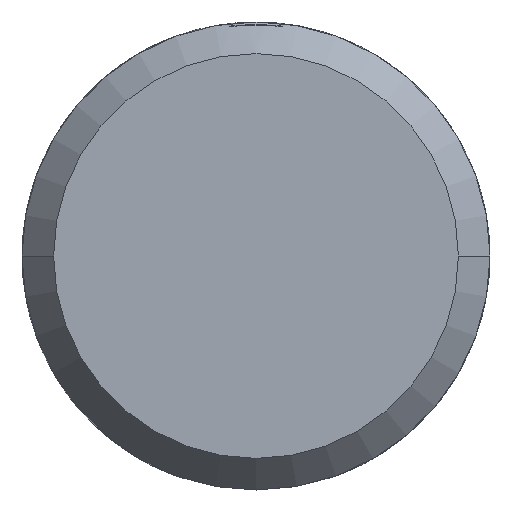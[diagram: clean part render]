
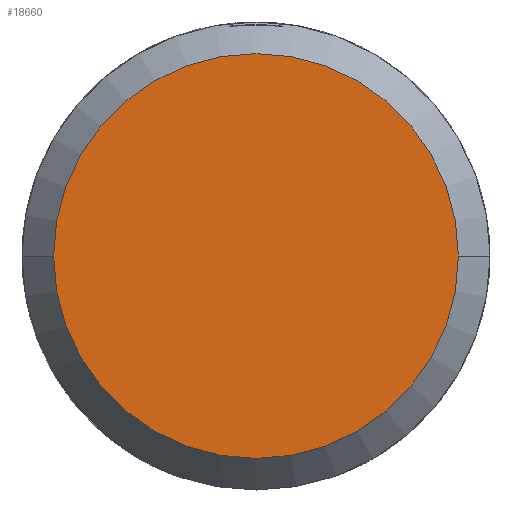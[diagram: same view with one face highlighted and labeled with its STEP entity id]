
A CAD part, front view. The second image highlights one B-rep face of the part: STEP entity #18660.
In plain terms, the highlighted planar face has unit normal (0, -1, 0).
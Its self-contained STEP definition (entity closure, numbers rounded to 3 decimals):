
#5667=CARTESIAN_POINT('',(0.,-94.,0.));
#5668=DIRECTION('',(0.,1.,0.));
#5669=DIRECTION('',(-1.,0.,0.));
#5670=AXIS2_PLACEMENT_3D('',#5667,#5668,#5669);
#5672=CARTESIAN_POINT('',(0.,-94.,0.));
#5673=DIRECTION('',(0.,-1.,0.));
#5674=DIRECTION('',(-1.,0.,0.));
#5675=AXIS2_PLACEMENT_3D('',#5672,#5673,#5674);
#10808=CARTESIAN_POINT('',(-64.,-94.,0.));
#10809=CARTESIAN_POINT('',(64.,-94.,0.));
#10810=VERTEX_POINT('',#10808);
#10811=VERTEX_POINT('',#10809);
#18651=CARTESIAN_POINT('',(0.,-94.,0.));
#18652=DIRECTION('',(0.,-1.,0.));
#18653=DIRECTION('',(1.,0.,0.));
#18654=AXIS2_PLACEMENT_3D('',#18651,#18652,#18653);
#18655=PLANE('',#18654);
#18656=ORIENTED_EDGE('',*,*,#18634,.T.);
#18657=ORIENTED_EDGE('',*,*,#18620,.F.);
#18658=EDGE_LOOP('',(#18656,#18657));
#18659=FACE_OUTER_BOUND('',#18658,.F.);
#18660=ADVANCED_FACE('',(#18659),#18655,.T.);
#5671=CIRCLE('',#5670,64.);
#5676=CIRCLE('',#5675,64.);
#18620=EDGE_CURVE('',#10810,#10811,#5676,.T.);
#18634=EDGE_CURVE('',#10810,#10811,#5671,.T.);
